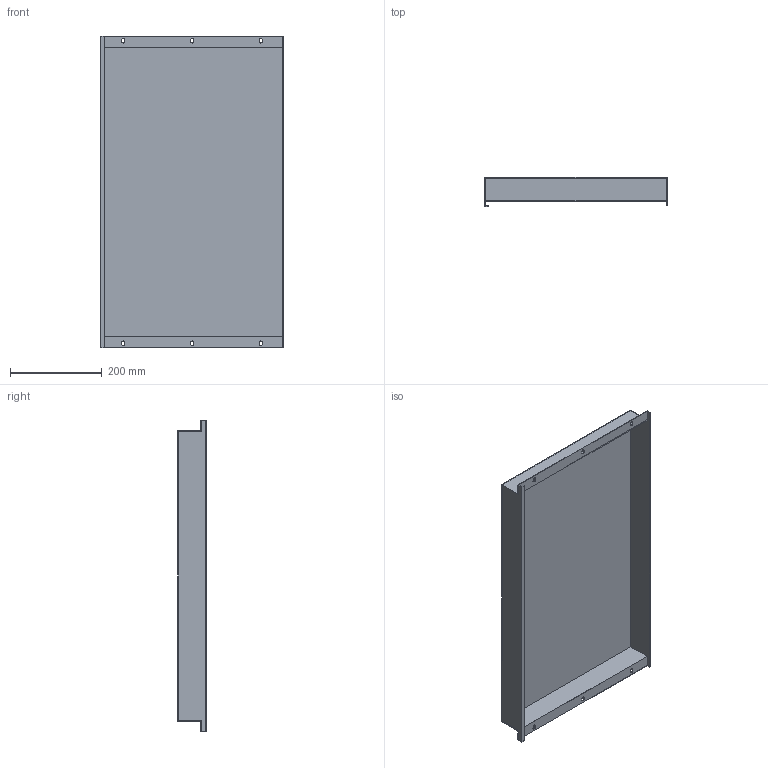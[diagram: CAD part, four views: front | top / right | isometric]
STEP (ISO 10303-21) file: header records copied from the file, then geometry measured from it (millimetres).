
FILE_DESCRIPTION (( 'STEP AP214' ), '1' );
FILE_NAME ('FO-00-PVSU-040-080 Ïëàñòðîí âíóòðåííèé óãëóáëåííûé 400õ800õ50.STEP', '2025-08-26T12:15:26', ( '' ), ( '' ), 'SwSTEP 2.0', 'SolidWorks 2023', '' );
FILE_SCHEMA (( 'AUTOMOTIVE_DESIGN' ));
Length unit declared in the file: millimetre
Products named in the file (1): FO-00-PVSU-040-080 Пластрон внутренний углубленный 400х800х50
Bounding box: 398 x 62.5 x 679 mm (x, y, z)
Volume: 546717.4 mm3; surface area: 784348.6 mm2
Topology: 1 solids, 1 shells, 55 faces, 160 edges, 107 vertices
Faces by surface type: plane 37, cylinder 18
Entity records: 1865 total; most frequent: CARTESIAN_POINT 323, ORIENTED_EDGE 320, DIRECTION 308, EDGE_CURVE 160, VECTOR 124, LINE 124, VERTEX_POINT 107, AXIS2_PLACEMENT_3D 92
